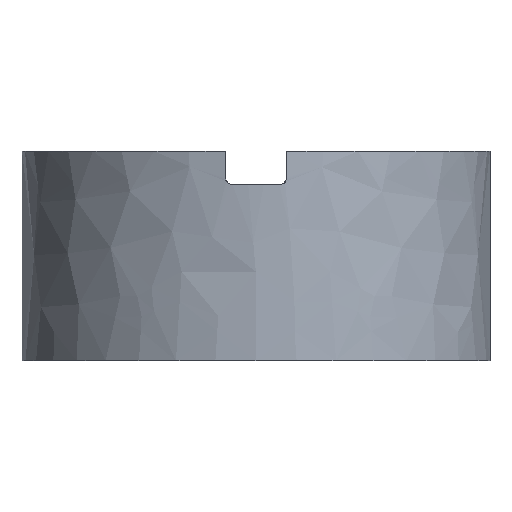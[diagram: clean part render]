
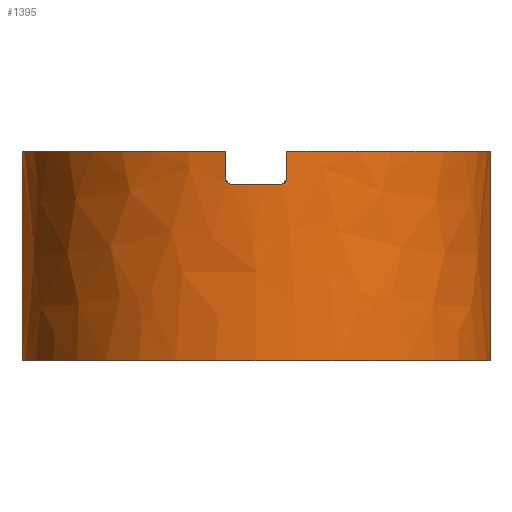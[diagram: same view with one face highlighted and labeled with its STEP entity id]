
A CAD part, left-side view. The second image highlights one B-rep face of the part: STEP entity #1395.
In plain terms, the highlighted free-form (B-spline) face has degree [9, 1] with [10, 2] control points.
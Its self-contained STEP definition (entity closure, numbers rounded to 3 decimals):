
#30=CARTESIAN_POINT('',(0.,0.,56.));
#31=DIRECTION('',(0.,0.,-1.));
#32=DIRECTION('',(0.,-1.,0.));
#33=AXIS2_PLACEMENT_3D('',#30,#31,#32);
#61=CARTESIAN_POINT('',(0.,0.,56.));
#62=DIRECTION('',(0.,0.,-1.));
#63=DIRECTION('',(-0.991,0.131,0.));
#64=AXIS2_PLACEMENT_3D('',#61,#62,#63);
#408=DIRECTION('',(0.,0.,-1.));
#409=VECTOR('',#408,56.);
#410=CARTESIAN_POINT('',(0.,62.5,56.));
#411=LINE('',#410,#409);
#417=DIRECTION('',(0.,0.,-1.));
#418=VECTOR('',#417,56.);
#419=CARTESIAN_POINT('',(0.,-62.5,56.));
#420=LINE('',#419,#418);
#429=DIRECTION('',(0.,0.,1.));
#430=VECTOR('',#429,7.);
#431=CARTESIAN_POINT('',(-61.96,-8.2,49.));
#432=LINE('',#431,#430);
#433=CARTESIAN_POINT('',(0.,0.,0.));
#434=DIRECTION('',(0.,0.,-1.));
#435=DIRECTION('',(0.,-1.,0.));
#436=AXIS2_PLACEMENT_3D('',#433,#434,#435);
#438=DIRECTION('',(0.,0.,1.));
#439=VECTOR('',#438,7.);
#440=CARTESIAN_POINT('',(-61.96,8.2,49.));
#441=LINE('',#440,#439);
#442=CARTESIAN_POINT('',(-62.192,6.2,47.));
#443=CARTESIAN_POINT('',(-62.186,6.262,47.));
#444=CARTESIAN_POINT('',(-62.173,6.385,47.006));
#445=CARTESIAN_POINT('',(-62.154,6.569,47.031));
#446=CARTESIAN_POINT('',(-62.135,6.75,47.074));
#447=CARTESIAN_POINT('',(-62.115,6.926,47.133));
#448=CARTESIAN_POINT('',(-62.096,7.095,47.208));
#449=CARTESIAN_POINT('',(-62.077,7.258,47.299));
#450=CARTESIAN_POINT('',(-62.059,7.41,47.404));
#451=CARTESIAN_POINT('',(-62.042,7.553,47.523));
#452=CARTESIAN_POINT('',(-62.026,7.683,47.654));
#453=CARTESIAN_POINT('',(-62.011,7.801,47.797));
#454=CARTESIAN_POINT('',(-61.998,7.905,47.949));
#455=CARTESIAN_POINT('',(-61.987,7.995,48.111));
#456=CARTESIAN_POINT('',(-61.977,8.069,48.28));
#457=CARTESIAN_POINT('',(-61.969,8.127,48.455));
#458=CARTESIAN_POINT('',(-61.964,8.169,48.634));
#459=CARTESIAN_POINT('',(-61.96,8.194,48.816));
#460=CARTESIAN_POINT('',(-61.96,8.2,48.939));
#461=CARTESIAN_POINT('',(-61.96,8.2,49.));
#463=CARTESIAN_POINT('',(0.,0.,47.));
#464=DIRECTION('',(0.,0.,1.));
#465=DIRECTION('',(-0.995,0.099,0.));
#466=AXIS2_PLACEMENT_3D('',#463,#464,#465);
#468=CARTESIAN_POINT('',(-61.96,-8.2,49.));
#469=CARTESIAN_POINT('',(-61.96,-8.2,48.939));
#470=CARTESIAN_POINT('',(-61.96,-8.194,48.816));
#471=CARTESIAN_POINT('',(-61.964,-8.169,48.634));
#472=CARTESIAN_POINT('',(-61.969,-8.127,48.455));
#473=CARTESIAN_POINT('',(-61.977,-8.069,48.28));
#474=CARTESIAN_POINT('',(-61.987,-7.995,48.111));
#475=CARTESIAN_POINT('',(-61.998,-7.905,47.949));
#476=CARTESIAN_POINT('',(-62.011,-7.801,47.797));
#477=CARTESIAN_POINT('',(-62.026,-7.683,47.654));
#478=CARTESIAN_POINT('',(-62.042,-7.553,47.523));
#479=CARTESIAN_POINT('',(-62.059,-7.41,47.404));
#480=CARTESIAN_POINT('',(-62.077,-7.258,47.299));
#481=CARTESIAN_POINT('',(-62.096,-7.095,47.208));
#482=CARTESIAN_POINT('',(-62.115,-6.926,47.133));
#483=CARTESIAN_POINT('',(-62.135,-6.75,47.074));
#484=CARTESIAN_POINT('',(-62.154,-6.569,47.031));
#485=CARTESIAN_POINT('',(-62.173,-6.385,47.006));
#486=CARTESIAN_POINT('',(-62.186,-6.262,47.));
#487=CARTESIAN_POINT('',(-62.192,-6.2,47.));
#543=CARTESIAN_POINT('',(0.,62.5,56.));
#544=CARTESIAN_POINT('',(0.,62.5,0.));
#545=VERTEX_POINT('',#543);
#546=VERTEX_POINT('',#544);
#553=CARTESIAN_POINT('',(0.,-62.5,56.));
#554=CARTESIAN_POINT('',(0.,-62.5,0.));
#555=VERTEX_POINT('',#553);
#556=VERTEX_POINT('',#554);
#570=CARTESIAN_POINT('',(-61.96,-8.2,49.));
#571=CARTESIAN_POINT('',(-61.96,-8.2,56.));
#572=VERTEX_POINT('',#570);
#573=VERTEX_POINT('',#571);
#574=VERTEX_POINT('',#487);
#575=CARTESIAN_POINT('',(-62.192,6.2,47.));
#576=VERTEX_POINT('',#575);
#577=VERTEX_POINT('',#461);
#578=CARTESIAN_POINT('',(-61.96,8.2,56.));
#579=VERTEX_POINT('',#578);
#1359=CARTESIAN_POINT('',(3.924,62.377,-1.12));
#1360=CARTESIAN_POINT('',(3.924,62.377,57.12));
#1361=CARTESIAN_POINT('',(-18.72,63.801,-1.12));
#1362=CARTESIAN_POINT('',(-18.72,63.801,57.12));
#1363=CARTESIAN_POINT('',(-41.946,55.978,-1.12));
#1364=CARTESIAN_POINT('',(-41.946,55.978,57.12));
#1365=CARTESIAN_POINT('',(-61.437,38.634,-1.12));
#1366=CARTESIAN_POINT('',(-61.437,38.634,57.12));
#1367=CARTESIAN_POINT('',(-72.735,13.852,-1.12));
#1368=CARTESIAN_POINT('',(-72.735,13.852,57.12));
#1369=CARTESIAN_POINT('',(-72.736,-13.852,-1.12));
#1370=CARTESIAN_POINT('',(-72.736,-13.852,57.12));
#1371=CARTESIAN_POINT('',(-61.436,-38.634,-1.12));
#1372=CARTESIAN_POINT('',(-61.436,-38.634,57.12));
#1373=CARTESIAN_POINT('',(-41.946,-55.978,-1.12));
#1374=CARTESIAN_POINT('',(-41.946,-55.978,57.12));
#1375=CARTESIAN_POINT('',(-18.72,-63.801,-1.12));
#1376=CARTESIAN_POINT('',(-18.72,-63.801,57.12));
#1377=CARTESIAN_POINT('',(3.924,-62.377,-1.12));
#1378=CARTESIAN_POINT('',(3.924,-62.377,57.12));
#1379=B_SPLINE_SURFACE_WITH_KNOTS('',9,1,((#1359,#1360),(#1361,#1362),(#1363,
#1364),(#1365,#1366),(#1367,#1368),(#1369,#1370),(#1371,#1372),(#1373,#1374),(
#1375,#1376),(#1377,#1378)),.UNSPECIFIED.,.F.,.F.,.F.,(10,10),(2,2),(
-0.063,3.204),(-1.12,57.12),.UNSPECIFIED.);
#1380=ORIENTED_EDGE('',*,*,#719,.T.);
#1381=ORIENTED_EDGE('',*,*,#637,.F.);
#1382=ORIENTED_EDGE('',*,*,#1289,.T.);
#1383=ORIENTED_EDGE('',*,*,#1239,.T.);
#1384=ORIENTED_EDGE('',*,*,#1286,.F.);
#1385=ORIENTED_EDGE('',*,*,#672,.F.);
#1387=ORIENTED_EDGE('',*,*,#1386,.F.);
#1389=ORIENTED_EDGE('',*,*,#1388,.F.);
#1391=ORIENTED_EDGE('',*,*,#1390,.T.);
#1392=ORIENTED_EDGE('',*,*,#1317,.F.);
#1393=EDGE_LOOP('',(#1380,#1381,#1382,#1383,#1384,#1385,#1387,#1389,#1391,
#1392));
#1394=FACE_OUTER_BOUND('',#1393,.F.);
#34=CIRCLE('',#33,62.5);
#65=CIRCLE('',#64,62.5);
#437=CIRCLE('',#436,62.5);
#462=B_SPLINE_CURVE_WITH_KNOTS('',3,(#442,#443,#444,#445,#446,#447,#448,#449,
#450,#451,#452,#453,#454,#455,#456,#457,#458,#459,#460,#461),.UNSPECIFIED.,.F.,
.F.,(4,1,1,1,1,1,1,1,1,1,1,1,1,1,1,1,1,4),(0.,0.059,
0.118,0.176,0.235,0.294,
0.353,0.412,0.471,0.529,
0.588,0.647,0.706,0.765,
0.824,0.882,0.941,1.),.UNSPECIFIED.);
#467=CIRCLE('',#466,62.5);
#488=B_SPLINE_CURVE_WITH_KNOTS('',3,(#468,#469,#470,#471,#472,#473,#474,#475,
#476,#477,#478,#479,#480,#481,#482,#483,#484,#485,#486,#487),.UNSPECIFIED.,.F.,
.F.,(4,1,1,1,1,1,1,1,1,1,1,1,1,1,1,1,1,4),(0.,0.059,
0.118,0.176,0.235,0.294,
0.353,0.412,0.471,0.529,
0.588,0.647,0.706,0.765,
0.824,0.882,0.941,1.),.UNSPECIFIED.);
#637=EDGE_CURVE('',#555,#573,#34,.T.);
#672=EDGE_CURVE('',#579,#545,#65,.T.);
#719=EDGE_CURVE('',#572,#573,#432,.T.);
#1239=EDGE_CURVE('',#556,#546,#437,.T.);
#1286=EDGE_CURVE('',#545,#546,#411,.T.);
#1289=EDGE_CURVE('',#555,#556,#420,.T.);
#1317=EDGE_CURVE('',#572,#574,#488,.T.);
#1386=EDGE_CURVE('',#577,#579,#441,.T.);
#1388=EDGE_CURVE('',#576,#577,#462,.T.);
#1390=EDGE_CURVE('',#576,#574,#467,.T.);
#1395=ADVANCED_FACE('',(#1394),#1379,.T.);
